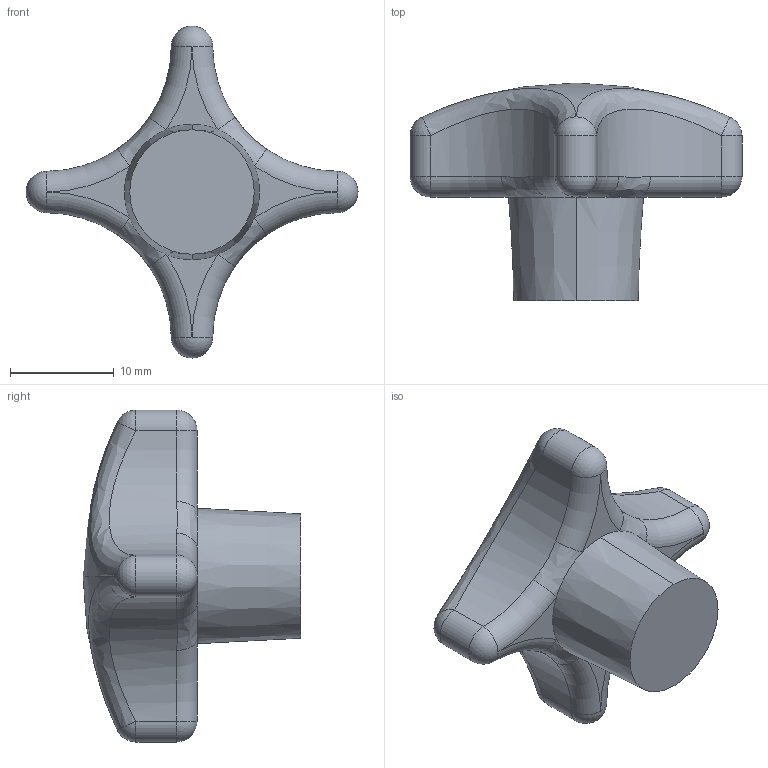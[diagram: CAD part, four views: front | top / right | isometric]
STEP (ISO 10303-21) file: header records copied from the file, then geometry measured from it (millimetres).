
FILE_DESCRIPTION (( 'STEP AP203' ), '1' );
FILE_NAME ('7000.W032.step', '2010-01-29T17:33:50', ( 'Wixroyd' ), ( 'Wixroyd' ), 'SwSTEP 2.0', 'SolidWorks 2009', '' );
FILE_SCHEMA (( 'CONFIG_CONTROL_DESIGN' ));
Length unit declared in the file: millimetre
Products named in the file (1): 7000.W032
Bounding box: 32 x 21 x 32 mm (x, y, z)
Volume: 4617.5 mm3; surface area: 1848.3 mm2
Topology: 1 solids, 1 shells, 42 faces, 91 edges, 47 vertices
Faces by surface type: sphere 10, cylinder 9, torus 8, bspline 8, plane 5, cone 2
Entity records: 4124 total; most frequent: CARTESIAN_POINT 3161, DIRECTION 209, ORIENTED_EDGE 174, AXIS2_PLACEMENT_3D 99, EDGE_CURVE 87, CIRCLE 64, VERTEX_POINT 47, FACE_OUTER_BOUND 42
